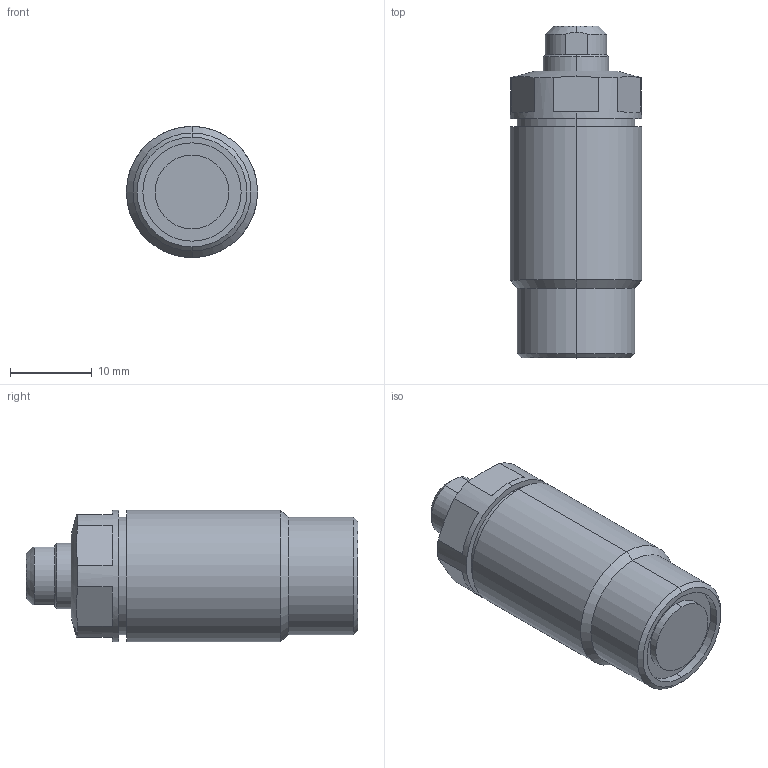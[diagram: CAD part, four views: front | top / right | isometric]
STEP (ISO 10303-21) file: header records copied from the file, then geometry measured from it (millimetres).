
FILE_DESCRIPTION (( 'STEP AP203' ), '1' );
FILE_NAME ('T03C-M160 S threaded pusher.STEP', '2022-07-09T17:34:38', ( '' ), ( '' ), 'SwSTEP 2.0', 'SolidWorks 2017', '' );
FILE_SCHEMA (( 'CONFIG_CONTROL_DESIGN' ));
Length unit declared in the file: millimetre
Products named in the file (3): T03C-M160-S part-1; T03C-M160-S part-2; T03C-M160 S threaded pusher
Assembly tree (2 placements, depth 2):
  T03C-M160 S threaded pusher
    T03C-M160-S part-1
    T03C-M160-S part-2
Bounding box: 16 x 40.5 x 16 mm (x, y, z)
Volume: 7826.4 mm3; surface area: 3175 mm2
Topology: 2 solids, 2 shells, 233 faces, 610 edges, 401 vertices
Faces by surface type: plane 120, bspline 80, cylinder 18, cone 15
Entity records: 11577 total; most frequent: CARTESIAN_POINT 6188, ORIENTED_EDGE 1216, DIRECTION 751, EDGE_CURVE 608, VERTEX_POINT 401, VECTOR 313, LINE 313, EDGE_LOOP 255
